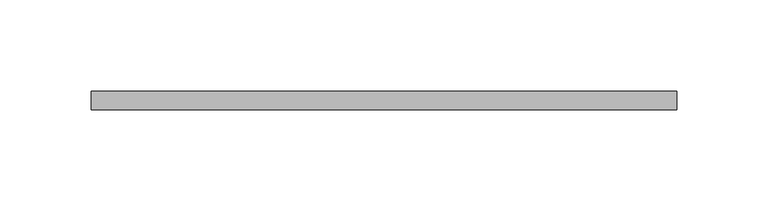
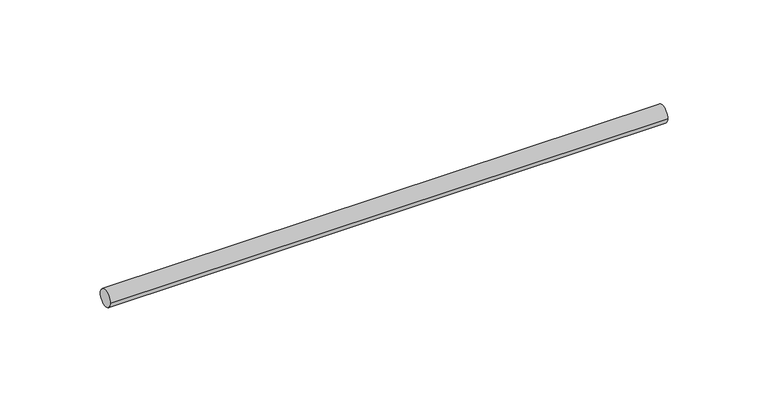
"""IFC4 building model written with IfcOpenShell, lengths in millimetres: valve geometry, Superfix Threaded Rod (used for clamps) : Threaded Rod  Extra  - 1000 mm (used for clamps)."""

from ifc_helpers import new_model, si_unit, point, frame, origin, origin_2d, place, context, project, spatial, circle_curve, trimmed, segment, composite_curve, outline, extrude, source, transform, mapped, element, save


def valve_51bf7b5a(model_context):
    return source(origin(), model_context, "Body", "SweptSolid", [
        extrude(outline(composite_curve([segment(trimmed(circle_curve(origin_2d(), 5.0), [point((-5.0, 0.0))], [point((5.0, 0.0))], False, "CARTESIAN"), True, "CONTINUOUS"), segment(trimmed(circle_curve(origin_2d(), 5.0), [point((5.0, 0.0))], [point((-5.0, 0.0))], False, "CARTESIAN"), True, "CONTINUOUS")], self_intersect=False)), frame((-10.0, 0.0, 0.0), z_axis=(1.0, 0.0, 0.0), x_axis=(0.0, 1.0, 0.0)), (0.0, 0.0, 1.0), 320.5),
    ])


if __name__ == "__main__":
    model = new_model("IFC4")
    model_context = context("Model", 3, world=origin())
    ifc_project = project(units=[si_unit("LENGTHUNIT", "METRE", prefix="MILLI")], contexts=[model_context])
    site = spatial("IfcSite", under=ifc_project)
    building = spatial("IfcBuilding", under=site)
    placement = place(None, origin())
    valve_shape = valve_51bf7b5a(model_context)
    element("IfcValve", 1, ObjectType="Superfix Threaded Rod (used for clamps) : Threaded Rod  Extra  - 1000 mm (used for clamps)", at=placement, inside=building, context=model_context, shape_type="MappedRepresentation", body=[
        mapped(valve_shape, transform((0.0, 0.0, 0.0), x_axis=(1.0, 0.0, 0.0), y_axis=(0.0, 1.0, 0.0), z_axis=(0.0, 0.0, 1.0))),
    ])
    save(model, "model.ifc")
